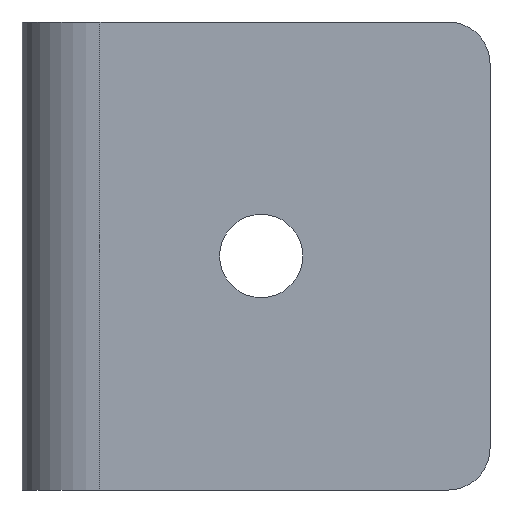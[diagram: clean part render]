
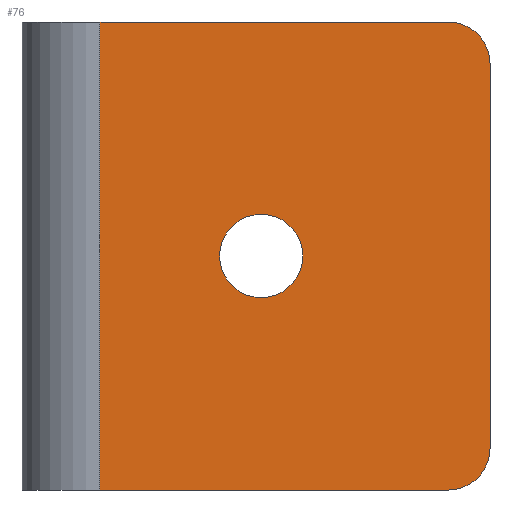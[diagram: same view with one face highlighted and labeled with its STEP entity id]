
A CAD part, front view. The second image highlights one B-rep face of the part: STEP entity #76.
In plain terms, the highlighted planar face has unit normal (0, -1, 0).
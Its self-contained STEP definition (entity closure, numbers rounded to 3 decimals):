
#76 = ADVANCED_FACE( '', ( #94, #95 ), #96, .F. );
#94 = FACE_BOUND( '', #132, .T. );
#95 = FACE_OUTER_BOUND( '', #133, .T. );
#96 = PLANE( '', #134 );
#132 = EDGE_LOOP( '', ( #175 ) );
#133 = EDGE_LOOP( '', ( #176, #177, #178, #179, #180, #181 ) );
#134 = AXIS2_PLACEMENT_3D( '', #182, #183, #184 );
#175 = ORIENTED_EDGE( '', *, *, #300, .F. );
#176 = ORIENTED_EDGE( '', *, *, #301, .T. );
#177 = ORIENTED_EDGE( '', *, *, #302, .F. );
#178 = ORIENTED_EDGE( '', *, *, #303, .F. );
#179 = ORIENTED_EDGE( '', *, *, #304, .F. );
#180 = ORIENTED_EDGE( '', *, *, #305, .F. );
#181 = ORIENTED_EDGE( '', *, *, #297, .T. );
#182 = CARTESIAN_POINT( '', ( 7.5, 0., 22.5 ) );
#183 = DIRECTION( '', ( 0., 1., 0. ) );
#184 = DIRECTION( '', ( 0., 0., 1. ) );
#297 = EDGE_CURVE( '', #339, #337, #340, .T. );
#300 = EDGE_CURVE( '', #344, #344, #345, .T. );
#301 = EDGE_CURVE( '', #337, #346, #347, .T. );
#302 = EDGE_CURVE( '', #348, #346, #349, .T. );
#303 = EDGE_CURVE( '', #350, #348, #351, .T. );
#304 = EDGE_CURVE( '', #352, #350, #353, .T. );
#305 = EDGE_CURVE( '', #339, #352, #354, .T. );
#337 = VERTEX_POINT( '', #405 );
#339 = VERTEX_POINT( '', #407 );
#340 = LINE( '', #408, #409 );
#344 = VERTEX_POINT( '', #414 );
#345 = CIRCLE( '', #415, 4. );
#346 = VERTEX_POINT( '', #416 );
#347 = LINE( '', #417, #418 );
#348 = VERTEX_POINT( '', #419 );
#349 = CIRCLE( '', #420, 4. );
#350 = VERTEX_POINT( '', #421 );
#351 = LINE( '', #422, #423 );
#352 = VERTEX_POINT( '', #424 );
#353 = CIRCLE( '', #425, 4. );
#354 = LINE( '', #426, #427 );
#405 = CARTESIAN_POINT( '', ( 7.5, 0., -22.5 ) );
#407 = CARTESIAN_POINT( '', ( 7.5, 0., 22.5 ) );
#408 = CARTESIAN_POINT( '', ( 7.5, 0., 22.5 ) );
#409 = VECTOR( '', #499, 1000. );
#414 = CARTESIAN_POINT( '', ( 23., 0., -4. ) );
#415 = AXIS2_PLACEMENT_3D( '', #504, #505, #506 );
#416 = CARTESIAN_POINT( '', ( 41., 0., -22.5 ) );
#417 = CARTESIAN_POINT( '', ( 7.5, 0., -22.5 ) );
#418 = VECTOR( '', #507, 1000. );
#419 = CARTESIAN_POINT( '', ( 45., 0., -18.5 ) );
#420 = AXIS2_PLACEMENT_3D( '', #508, #509, #510 );
#421 = CARTESIAN_POINT( '', ( 45., 0., 18.5 ) );
#422 = CARTESIAN_POINT( '', ( 45., 0., 22.5 ) );
#423 = VECTOR( '', #511, 1000. );
#424 = CARTESIAN_POINT( '', ( 41., 0., 22.5 ) );
#425 = AXIS2_PLACEMENT_3D( '', #512, #513, #514 );
#426 = CARTESIAN_POINT( '', ( 7.5, 0., 22.5 ) );
#427 = VECTOR( '', #515, 1000. );
#499 = DIRECTION( '', ( 0., 0., -1. ) );
#504 = CARTESIAN_POINT( '', ( 23., 0., 0. ) );
#505 = DIRECTION( '', ( 0., -1., 0. ) );
#506 = DIRECTION( '', ( 0., 0., -1. ) );
#507 = DIRECTION( '', ( 1., 0., 0. ) );
#508 = CARTESIAN_POINT( '', ( 41., 0., -18.5 ) );
#509 = DIRECTION( '', ( 0., 1., 0. ) );
#510 = DIRECTION( '', ( 1., 0., 0. ) );
#511 = DIRECTION( '', ( 0., 0., -1. ) );
#512 = CARTESIAN_POINT( '', ( 41., 0., 18.5 ) );
#513 = DIRECTION( '', ( 0., 1., 0. ) );
#514 = DIRECTION( '', ( 1., 0., 0. ) );
#515 = DIRECTION( '', ( 1., 0., 0. ) );
